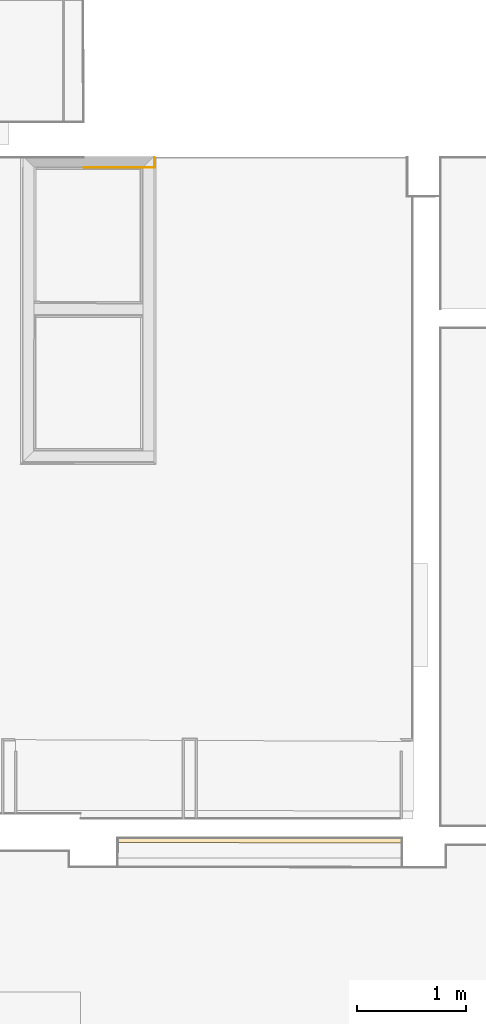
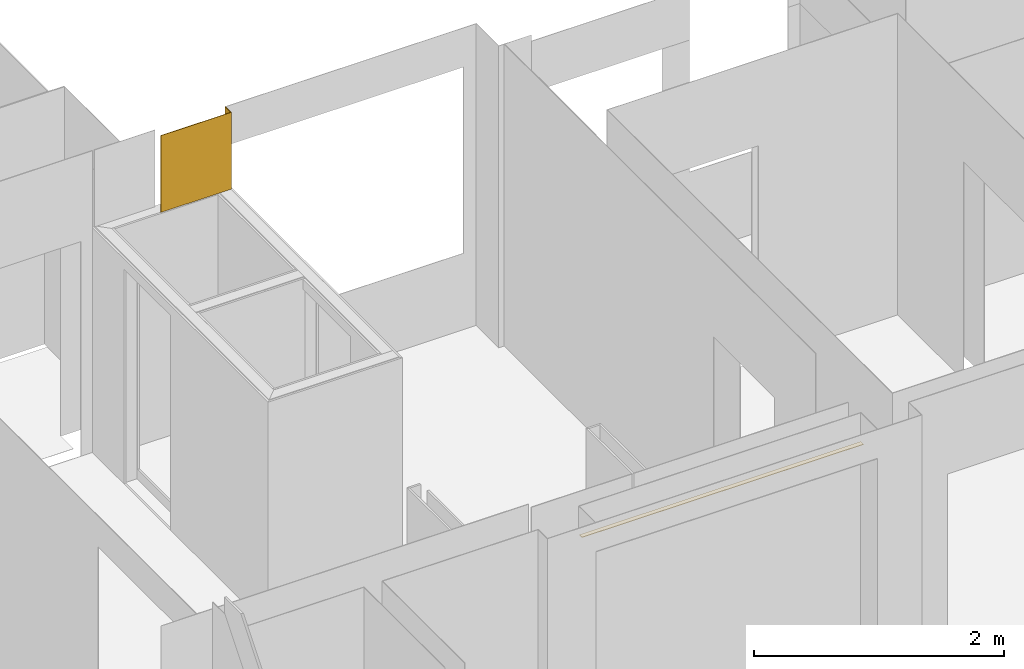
# One storey, part 30 of 33: 3 coverings.
"""IFC2X3 building model written with IfcOpenShell, lengths in millimetres."""

from ifc_helpers import new_model, entity, si_unit, converted_unit, derived_unit, money_unit, direction, frame, origin_with_axes, place, context, subcontext, project, spatial, polyline, outline, extrude, boolean, faceted_brep, material, type_object, element, save


model = new_model("IFC2X3")

# Units and contexts
model_context = context("Model", 3, precision=0.01, world=origin_with_axes(), true_north=direction((0.0, 1.0)))
body_context = subcontext(model_context, "Body", "Model", "MODEL_VIEW")
ifc_project = project(units=[si_unit("LENGTHUNIT", "METRE", prefix="MILLI"), si_unit("AREAUNIT", "SQUARE_METRE"), si_unit("VOLUMEUNIT", "CUBIC_METRE"), converted_unit("PLANEANGLEUNIT", "DEGREE", entity("IfcPlaneAngleMeasure", 0.0174532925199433), si_unit("PLANEANGLEUNIT", "RADIAN"), dimensions=[0, 0, 0, 0, 0, 0, 0]), money_unit("EUR"), converted_unit("TIMEUNIT", "Year", entity("IfcTimeMeasure", 31556926.0), si_unit("TIMEUNIT", "SECOND"), dimensions=[0, 0, 1, 0, 0, 0, 0]), si_unit("MASSUNIT", "GRAM", prefix="KILO"), si_unit("THERMODYNAMICTEMPERATUREUNIT", "DEGREE_CELSIUS"), si_unit("LUMINOUSINTENSITYUNIT", "LUMEN"), si_unit("ENERGYUNIT", "JOULE", prefix="MEGA"), derived_unit("THERMALCONDUCTANCEUNIT", [(si_unit("POWERUNIT", "WATT"), 1), (si_unit("LENGTHUNIT", "METRE"), -1), (si_unit("THERMODYNAMICTEMPERATUREUNIT", "KELVIN"), -1)]), derived_unit("SPECIFICHEATCAPACITYUNIT", [(si_unit("ENERGYUNIT", "JOULE"), 1), (si_unit("MASSUNIT", "GRAM", prefix="KILO"), -1), (si_unit("THERMODYNAMICTEMPERATUREUNIT", "KELVIN"), -1)]), derived_unit("MASSDENSITYUNIT", [(si_unit("MASSUNIT", "GRAM", prefix="KILO"), 1), (si_unit("VOLUMEUNIT", "CUBIC_METRE"), -1)])], contexts=[model_context])

# Site, building, storey
site_placement = place(None, origin_with_axes())
site = spatial("IfcSite", under=ifc_project, at=site_placement, Name="Paldiski mnt 245/1, Tallinn, Harjumaa", CompositionType="COMPLEX")
building_placement = place(site_placement, origin_with_axes())
building = spatial("IfcBuilding", under=site, at=building_placement, Name="RKAS Hoone üldnimetus (kasutust iseloomustav) -> IFC Project Manager -> SOLIBRI", CompositionType="ELEMENT")
storey_placement = place(building_placement, origin_with_axes())
storey = spatial("IfcBuildingStorey", under=building, at=storey_placement, Name="Esimene korrus", CompositionType="ELEMENT", Elevation=0.0)

# Coverings
ifc_material_1 = material(Name="SA- Värv SM5(valge)")
covering_type_1 = type_object("IfcCoveringType", Name="SA- Värv SM5(valge) 5", PredefinedType="CLADDING")
covering_1_placement = place(storey_placement, frame((-43914.32525812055, -202.4228360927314, 2200.0), z_axis=(0.0, 0.0, 1.0), x_axis=(0.0006558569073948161, 0.9999997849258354, 0.0)))
element("IfcCovering", 1, at=covering_1_placement, inside=storey, type_object=covering_type_1, material=ifc_material_1, Name="SM5", PredefinedType="CLADDING", context=body_context, shape_type="SweptSolid", body=[
    extrude(outline(polyline([(-5.000000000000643, -5.000000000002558), (92.42613525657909, -4.999999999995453), (92.42285597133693, 0.0), (0.0, 0.0), (-5.000000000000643, -5.000000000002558)])), origin_with_axes(), (0.0, 0.0, 1.0), 750.0),
])
covering_2_placement = place(storey_placement, frame((-44560.61079680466, -201.9989651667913, 2200.0), z_axis=(0.0, 0.0, 1.0), x_axis=(0.9999997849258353, -0.0006558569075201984, 0.0)))
element("IfcCovering", 2, at=covering_2_placement, inside=storey, type_object=covering_type_1, material=ifc_material_1, Name="SM5", PredefinedType="CLADDING", context=body_context, shape_type="SweptSolid", body=[
    extrude(outline(polyline([(0.0, -5.000000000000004), (651.285677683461, -5.000000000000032), (646.2856776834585, 0.0), (0.0, 0.0), (0.0, -5.000000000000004)])), origin_with_axes(), (0.0, 0.0, 1.0), 750.0),
])
ifc_material_2 = material(Name="SA- Värv SM10(tumehall)")
covering_type_2 = type_object("IfcCoveringType", Name="SA- Värv SM10(tumehall) 5", PredefinedType="FLOORING")
covering_3_placement = place(storey_placement, frame((-41644.99997467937, -6398.00464308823, 2665.000000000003), z_axis=(0.0, 0.0, 1.0), x_axis=(1.0, 0.0, 0.0)))
element("IfcCovering", 3, at=covering_3_placement, inside=storey, type_object=covering_type_2, material=ifc_material_2, Name="SM10", PredefinedType="FLOORING", context=body_context, shape_type="CSG", body=[
    boolean("DIFFERENCE", extrude(outline(polyline([(0.0, 0.0), (-2.721186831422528e-06, 43.32502692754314), (-2599.875066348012, 43.01423668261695), (-2599.937642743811, 1.876202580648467), (0.0, 0.0)])), origin_with_axes(), (0.0, 0.0, 1.0), 5.0), faceted_brep([(-5.819345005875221e-09, 0.09264215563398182, 0.0), (-5.819345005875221e-09, 0.09264215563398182, 4.999999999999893), (0.0, 0.0, 4.999999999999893), (0.0, 0.0, 0.0), (-1408.435598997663, 1.016374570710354, 4.999999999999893), (-1408.435598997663, 1.016374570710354, 0.0)], [[[0, 1, 2, 3]], [[4, 1, 0, 5]], [[1, 4, 2]], [[4, 5, 3, 2]], [[5, 0, 3]]])),
])

save(model, "model.ifc")
